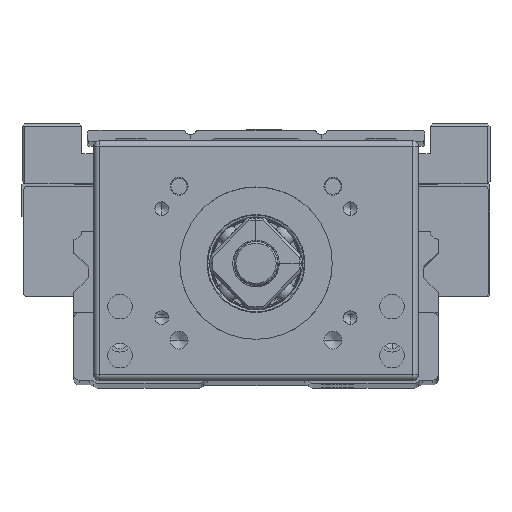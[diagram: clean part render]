
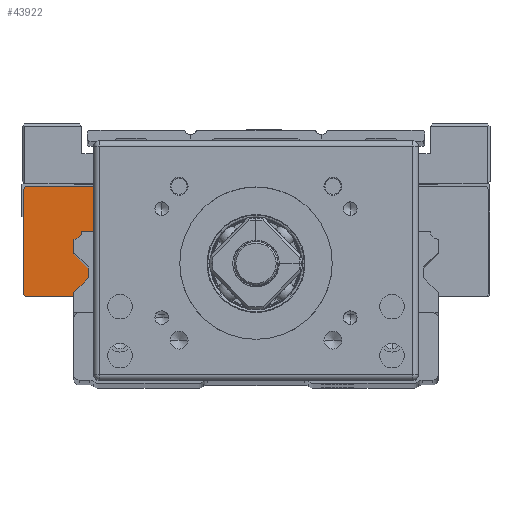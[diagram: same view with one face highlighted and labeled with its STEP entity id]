
A CAD part, top view. The second image highlights one B-rep face of the part: STEP entity #43922.
In plain terms, the highlighted planar face has unit normal (0, 0, 1).
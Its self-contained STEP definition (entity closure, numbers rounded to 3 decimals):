
#3609 = CARTESIAN_POINT ( 'NONE',  ( -9.6, 36.4, -126.3 ) ) ;
#4364 = LINE ( 'NONE', #33076, #30340 ) ;
#4863 = DIRECTION ( 'NONE',  ( -1., 0., 0. ) ) ;
#5240 = DIRECTION ( 'NONE',  ( 0., 0., 1. ) ) ;
#6143 = VERTEX_POINT ( 'NONE', #30084 ) ;
#6245 = EDGE_CURVE ( 'NONE', #6143, #31625, #58568, .T. ) ;
#7590 = CARTESIAN_POINT ( 'NONE',  ( -42.8, 16.8, -126.3 ) ) ;
#7797 = VECTOR ( 'NONE', #59878, 1000. ) ;
#8375 = LINE ( 'NONE', #37959, #9242 ) ;
#9242 = VECTOR ( 'NONE', #53116, 1000. ) ;
#12194 = AXIS2_PLACEMENT_3D ( 'NONE', #59965, #5240, #39964 ) ;
#12934 = EDGE_CURVE ( 'NONE', #22981, #20020, #31172, .T. ) ;
#13307 = CARTESIAN_POINT ( 'NONE',  ( -42.8, 28., -126.3 ) ) ;
#13454 = VECTOR ( 'NONE', #18534, 1000. ) ;
#14375 = VERTEX_POINT ( 'NONE', #43048 ) ;
#15677 = CARTESIAN_POINT ( 'NONE',  ( -42.3, 16.3, -126.3 ) ) ;
#17219 = VECTOR ( 'NONE', #47122, 1000. ) ;
#17318 = CARTESIAN_POINT ( 'NONE',  ( -42.55, 36.25, -126.3 ) ) ;
#17505 = LINE ( 'NONE', #17318, #17219 ) ;
#18534 = DIRECTION ( 'NONE',  ( 0.707, 0.707, 0. ) ) ;
#20020 = VERTEX_POINT ( 'NONE', #15677 ) ;
#20410 = EDGE_CURVE ( 'NONE', #20020, #31625, #8375, .T. ) ;
#20914 = DIRECTION ( 'NONE',  ( 0., -1., 0. ) ) ;
#21746 = EDGE_CURVE ( 'NONE', #55690, #59372, #22078, .T. ) ;
#22078 = LINE ( 'NONE', #24566, #22192 ) ;
#22192 = VECTOR ( 'NONE', #4863, 1000. ) ;
#22981 = VERTEX_POINT ( 'NONE', #31734 ) ;
#22982 = LINE ( 'NONE', #38256, #13454 ) ;
#24052 = ORIENTED_EDGE ( 'NONE', *, *, #51045, .F. ) ;
#24566 = CARTESIAN_POINT ( 'NONE',  ( -26., 36.4, -126.3 ) ) ;
#25087 = FACE_OUTER_BOUND ( 'NONE', #31101, .T. ) ;
#27504 = ORIENTED_EDGE ( 'NONE', *, *, #6245, .T. ) ;
#29872 = CARTESIAN_POINT ( 'NONE',  ( -9.2, 28., -126.3 ) ) ;
#30084 = CARTESIAN_POINT ( 'NONE',  ( -42.8, 36., -126.3 ) ) ;
#30340 = VECTOR ( 'NONE', #37847, 1000. ) ;
#31101 = EDGE_LOOP ( 'NONE', ( #24052, #27504, #32406, #36263, #41686, #49531, #54325, #64292 ) ) ;
#31103 = VECTOR ( 'NONE', #53212, 1000. ) ;
#31172 = LINE ( 'NONE', #52996, #31103 ) ;
#31174 = LINE ( 'NONE', #29872, #7797 ) ;
#31625 = VERTEX_POINT ( 'NONE', #7590 ) ;
#31734 = CARTESIAN_POINT ( 'NONE',  ( -9.7, 16.3, -126.3 ) ) ;
#32406 = ORIENTED_EDGE ( 'NONE', *, *, #20410, .F. ) ;
#33076 = CARTESIAN_POINT ( 'NONE',  ( -9.45, 36.25, -126.3 ) ) ;
#36263 = ORIENTED_EDGE ( 'NONE', *, *, #12934, .F. ) ;
#37847 = DIRECTION ( 'NONE',  ( 0.707, -0.707, 0. ) ) ;
#37959 = CARTESIAN_POINT ( 'NONE',  ( -42.55, 16.55, -126.3 ) ) ;
#38256 = CARTESIAN_POINT ( 'NONE',  ( -9.7, 16.3, -126.3 ) ) ;
#39964 = DIRECTION ( 'NONE',  ( 1., 0., 0. ) ) ;
#41686 = ORIENTED_EDGE ( 'NONE', *, *, #42374, .T. ) ;
#42374 = EDGE_CURVE ( 'NONE', #22981, #14375, #22982, .T. ) ;
#43048 = CARTESIAN_POINT ( 'NONE',  ( -9.2, 16.8, -126.3 ) ) ;
#43922 = ADVANCED_FACE ( 'NONE', ( #25087 ), #64480, .T. ) ;
#47122 = DIRECTION ( 'NONE',  ( 0.707, 0.707, 0. ) ) ;
#49531 = ORIENTED_EDGE ( 'NONE', *, *, #58448, .T. ) ;
#49542 = CARTESIAN_POINT ( 'NONE',  ( -9.2, 36., -126.3 ) ) ;
#51045 = EDGE_CURVE ( 'NONE', #6143, #59372, #17505, .T. ) ;
#52996 = CARTESIAN_POINT ( 'NONE',  ( -43., 16.3, -126.3 ) ) ;
#53116 = DIRECTION ( 'NONE',  ( -0.707, 0.707, 0. ) ) ;
#53212 = DIRECTION ( 'NONE',  ( -1., 0., 0. ) ) ;
#54325 = ORIENTED_EDGE ( 'NONE', *, *, #59635, .F. ) ;
#55283 = CARTESIAN_POINT ( 'NONE',  ( -42.4, 36.4, -126.3 ) ) ;
#55690 = VERTEX_POINT ( 'NONE', #3609 ) ;
#58448 = EDGE_CURVE ( 'NONE', #14375, #60660, #31174, .T. ) ;
#58568 = LINE ( 'NONE', #13307, #59322 ) ;
#59322 = VECTOR ( 'NONE', #20914, 1000. ) ;
#59372 = VERTEX_POINT ( 'NONE', #55283 ) ;
#59635 = EDGE_CURVE ( 'NONE', #55690, #60660, #4364, .T. ) ;
#59878 = DIRECTION ( 'NONE',  ( 0., 1., 0. ) ) ;
#59965 = CARTESIAN_POINT ( 'NONE',  ( -26., 28., -126.3 ) ) ;
#60660 = VERTEX_POINT ( 'NONE', #49542 ) ;
#64292 = ORIENTED_EDGE ( 'NONE', *, *, #21746, .T. ) ;
#64480 = PLANE ( 'NONE',  #12194 ) ;
